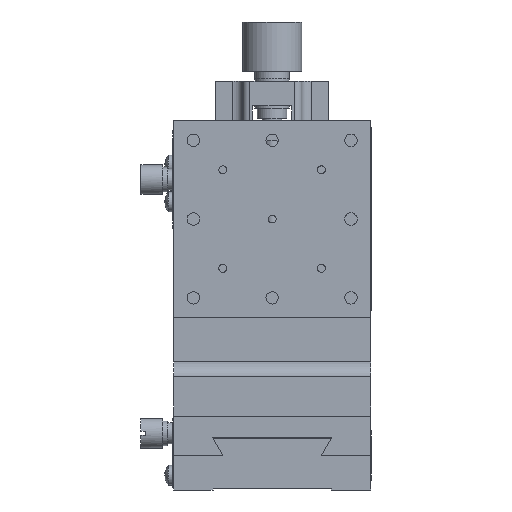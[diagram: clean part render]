
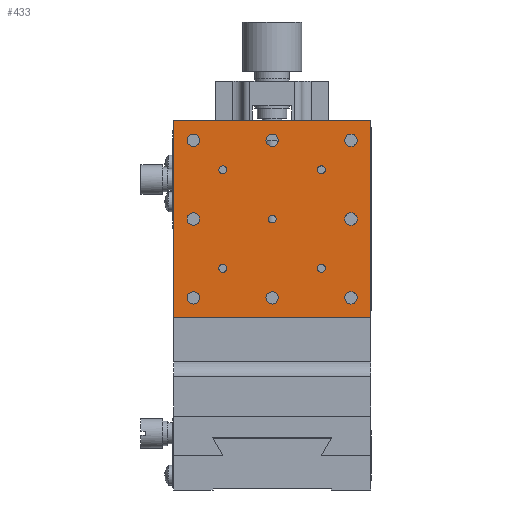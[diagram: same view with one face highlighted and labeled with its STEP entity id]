
A CAD part, front view. The second image highlights one B-rep face of the part: STEP entity #433.
In plain terms, the highlighted planar face has unit normal (0, -1, 0).
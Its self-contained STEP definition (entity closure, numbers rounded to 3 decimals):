
#433 = ADVANCED_FACE( '', ( #1048, #1049, #1050, #1051, #1052, #1053, #1054, #1055, #1056, #1057, #1058, #1059, #1060, #1061 ), #1062, .T. );
#1048 = FACE_BOUND( '', #1968, .T. );
#1049 = FACE_BOUND( '', #1969, .T. );
#1050 = FACE_BOUND( '', #1970, .T. );
#1051 = FACE_BOUND( '', #1971, .T. );
#1052 = FACE_BOUND( '', #1972, .T. );
#1053 = FACE_BOUND( '', #1973, .T. );
#1054 = FACE_BOUND( '', #1974, .T. );
#1055 = FACE_BOUND( '', #1975, .T. );
#1056 = FACE_BOUND( '', #1976, .T. );
#1057 = FACE_BOUND( '', #1977, .T. );
#1058 = FACE_BOUND( '', #1978, .T. );
#1059 = FACE_BOUND( '', #1979, .T. );
#1060 = FACE_BOUND( '', #1980, .T. );
#1061 = FACE_OUTER_BOUND( '', #1981, .T. );
#1062 = PLANE( '', #1982 );
#1968 = EDGE_LOOP( '', ( #3677 ) );
#1969 = EDGE_LOOP( '', ( #3678 ) );
#1970 = EDGE_LOOP( '', ( #3679 ) );
#1971 = EDGE_LOOP( '', ( #3680 ) );
#1972 = EDGE_LOOP( '', ( #3681 ) );
#1973 = EDGE_LOOP( '', ( #3682 ) );
#1974 = EDGE_LOOP( '', ( #3683 ) );
#1975 = EDGE_LOOP( '', ( #3684 ) );
#1976 = EDGE_LOOP( '', ( #3685 ) );
#1977 = EDGE_LOOP( '', ( #3686 ) );
#1978 = EDGE_LOOP( '', ( #3687 ) );
#1979 = EDGE_LOOP( '', ( #3688 ) );
#1980 = EDGE_LOOP( '', ( #3689 ) );
#1981 = EDGE_LOOP( '', ( #3690, #3691, #3692, #3693 ) );
#1982 = AXIS2_PLACEMENT_3D( '', #3694, #3695, #3696 );
#3677 = ORIENTED_EDGE( '', *, *, #5390, .T. );
#3678 = ORIENTED_EDGE( '', *, *, #5391, .T. );
#3679 = ORIENTED_EDGE( '', *, *, #5392, .T. );
#3680 = ORIENTED_EDGE( '', *, *, #5393, .T. );
#3681 = ORIENTED_EDGE( '', *, *, #5394, .T. );
#3682 = ORIENTED_EDGE( '', *, *, #5395, .T. );
#3683 = ORIENTED_EDGE( '', *, *, #5396, .T. );
#3684 = ORIENTED_EDGE( '', *, *, #5397, .T. );
#3685 = ORIENTED_EDGE( '', *, *, #5398, .T. );
#3686 = ORIENTED_EDGE( '', *, *, #5399, .T. );
#3687 = ORIENTED_EDGE( '', *, *, #5400, .T. );
#3688 = ORIENTED_EDGE( '', *, *, #5401, .T. );
#3689 = ORIENTED_EDGE( '', *, *, #5402, .T. );
#3690 = ORIENTED_EDGE( '', *, *, #5388, .F. );
#3691 = ORIENTED_EDGE( '', *, *, #5403, .F. );
#3692 = ORIENTED_EDGE( '', *, *, #5404, .F. );
#3693 = ORIENTED_EDGE( '', *, *, #5405, .F. );
#3694 = CARTESIAN_POINT( '', ( 0., -11., 55. ) );
#3695 = DIRECTION( '', ( 0., -1., 0. ) );
#3696 = DIRECTION( '', ( 0., 0., 1. ) );
#5388 = EDGE_CURVE( '', #6455, #6457, #6458, .T. );
#5390 = EDGE_CURVE( '', #6460, #6460, #6461, .T. );
#5391 = EDGE_CURVE( '', #6462, #6462, #6463, .T. );
#5392 = EDGE_CURVE( '', #6464, #6464, #6465, .T. );
#5393 = EDGE_CURVE( '', #6466, #6466, #6467, .T. );
#5394 = EDGE_CURVE( '', #6468, #6468, #6469, .T. );
#5395 = EDGE_CURVE( '', #6470, #6470, #6471, .T. );
#5396 = EDGE_CURVE( '', #6472, #6472, #6473, .T. );
#5397 = EDGE_CURVE( '', #6474, #6474, #6475, .T. );
#5398 = EDGE_CURVE( '', #6476, #6476, #6477, .T. );
#5399 = EDGE_CURVE( '', #6478, #6478, #6479, .T. );
#5400 = EDGE_CURVE( '', #6480, #6480, #6481, .T. );
#5401 = EDGE_CURVE( '', #6482, #6482, #6483, .T. );
#5402 = EDGE_CURVE( '', #6484, #6484, #6485, .T. );
#5403 = EDGE_CURVE( '', #6486, #6455, #6487, .T. );
#5404 = EDGE_CURVE( '', #6488, #6486, #6489, .T. );
#5405 = EDGE_CURVE( '', #6457, #6488, #6490, .T. );
#6455 = VERTEX_POINT( '', #8234 );
#6457 = VERTEX_POINT( '', #8237 );
#6458 = LINE( '', #8238, #8239 );
#6460 = VERTEX_POINT( '', #8242 );
#6461 = CIRCLE( '', #8243, 0.8 );
#6462 = VERTEX_POINT( '', #8244 );
#6463 = CIRCLE( '', #8245, 0.8 );
#6464 = VERTEX_POINT( '', #8246 );
#6465 = CIRCLE( '', #8247, 0.8 );
#6466 = VERTEX_POINT( '', #8248 );
#6467 = CIRCLE( '', #8249, 0.8 );
#6468 = VERTEX_POINT( '', #8250 );
#6469 = CIRCLE( '', #8251, 0.8 );
#6470 = VERTEX_POINT( '', #8252 );
#6471 = CIRCLE( '', #8253, 1.25 );
#6472 = VERTEX_POINT( '', #8254 );
#6473 = CIRCLE( '', #8255, 1.25 );
#6474 = VERTEX_POINT( '', #8256 );
#6475 = CIRCLE( '', #8257, 1.25 );
#6476 = VERTEX_POINT( '', #8258 );
#6477 = CIRCLE( '', #8259, 1.25 );
#6478 = VERTEX_POINT( '', #8260 );
#6479 = CIRCLE( '', #8261, 1.25 );
#6480 = VERTEX_POINT( '', #8262 );
#6481 = CIRCLE( '', #8263, 1.25 );
#6482 = VERTEX_POINT( '', #8264 );
#6483 = CIRCLE( '', #8265, 1.25 );
#6484 = VERTEX_POINT( '', #8266 );
#6485 = CIRCLE( '', #8267, 1.25 );
#6486 = VERTEX_POINT( '', #8268 );
#6487 = LINE( '', #8269, #8270 );
#6488 = VERTEX_POINT( '', #8271 );
#6489 = LINE( '', #8272, #8273 );
#6490 = LINE( '', #8274, #8275 );
#8234 = CARTESIAN_POINT( '', ( 20., -11., 75. ) );
#8237 = CARTESIAN_POINT( '', ( 20., -11., 35. ) );
#8238 = CARTESIAN_POINT( '', ( 20., -11., 55. ) );
#8239 = VECTOR( '', #9993, 1000. );
#8242 = CARTESIAN_POINT( '', ( 0.8, -11., 55. ) );
#8243 = AXIS2_PLACEMENT_3D( '', #9995, #9996, #9997 );
#8244 = CARTESIAN_POINT( '', ( -9.2, -11., 45. ) );
#8245 = AXIS2_PLACEMENT_3D( '', #9998, #9999, #10000 );
#8246 = CARTESIAN_POINT( '', ( -9.2, -11., 65. ) );
#8247 = AXIS2_PLACEMENT_3D( '', #10001, #10002, #10003 );
#8248 = CARTESIAN_POINT( '', ( 10.8, -11., 65. ) );
#8249 = AXIS2_PLACEMENT_3D( '', #10004, #10005, #10006 );
#8250 = CARTESIAN_POINT( '', ( 10.8, -11., 45. ) );
#8251 = AXIS2_PLACEMENT_3D( '', #10007, #10008, #10009 );
#8252 = CARTESIAN_POINT( '', ( 1.25, -11., 39. ) );
#8253 = AXIS2_PLACEMENT_3D( '', #10010, #10011, #10012 );
#8254 = CARTESIAN_POINT( '', ( -14.75, -11., 39. ) );
#8255 = AXIS2_PLACEMENT_3D( '', #10013, #10014, #10015 );
#8256 = CARTESIAN_POINT( '', ( -14.75, -11., 55. ) );
#8257 = AXIS2_PLACEMENT_3D( '', #10016, #10017, #10018 );
#8258 = CARTESIAN_POINT( '', ( -14.75, -11., 71. ) );
#8259 = AXIS2_PLACEMENT_3D( '', #10019, #10020, #10021 );
#8260 = CARTESIAN_POINT( '', ( 1.25, -11., 71. ) );
#8261 = AXIS2_PLACEMENT_3D( '', #10022, #10023, #10024 );
#8262 = CARTESIAN_POINT( '', ( 17.25, -11., 71. ) );
#8263 = AXIS2_PLACEMENT_3D( '', #10025, #10026, #10027 );
#8264 = CARTESIAN_POINT( '', ( 17.25, -11., 55. ) );
#8265 = AXIS2_PLACEMENT_3D( '', #10028, #10029, #10030 );
#8266 = CARTESIAN_POINT( '', ( 17.25, -11., 39. ) );
#8267 = AXIS2_PLACEMENT_3D( '', #10031, #10032, #10033 );
#8268 = CARTESIAN_POINT( '', ( -20., -11., 75. ) );
#8269 = CARTESIAN_POINT( '', ( 0., -11., 75. ) );
#8270 = VECTOR( '', #10034, 1000. );
#8271 = CARTESIAN_POINT( '', ( -20., -11., 35. ) );
#8272 = CARTESIAN_POINT( '', ( -20., -11., 55. ) );
#8273 = VECTOR( '', #10035, 1000. );
#8274 = CARTESIAN_POINT( '', ( 0., -11., 35. ) );
#8275 = VECTOR( '', #10036, 1000. );
#9993 = DIRECTION( '', ( 0., 0., -1. ) );
#9995 = CARTESIAN_POINT( '', ( 0., -11., 55. ) );
#9996 = DIRECTION( '', ( 0., 1., 0. ) );
#9997 = DIRECTION( '', ( 1., 0., 0. ) );
#9998 = CARTESIAN_POINT( '', ( -10., -11., 45. ) );
#9999 = DIRECTION( '', ( 0., 1., 0. ) );
#10000 = DIRECTION( '', ( 1., 0., 0. ) );
#10001 = CARTESIAN_POINT( '', ( -10., -11., 65. ) );
#10002 = DIRECTION( '', ( 0., 1., 0. ) );
#10003 = DIRECTION( '', ( 1., 0., 0. ) );
#10004 = CARTESIAN_POINT( '', ( 10., -11., 65. ) );
#10005 = DIRECTION( '', ( 0., 1., 0. ) );
#10006 = DIRECTION( '', ( 1., 0., 0. ) );
#10007 = CARTESIAN_POINT( '', ( 10., -11., 45. ) );
#10008 = DIRECTION( '', ( 0., 1., 0. ) );
#10009 = DIRECTION( '', ( 1., 0., 0. ) );
#10010 = CARTESIAN_POINT( '', ( 0., -11., 39. ) );
#10011 = DIRECTION( '', ( 0., 1., 0. ) );
#10012 = DIRECTION( '', ( 1., 0., 0. ) );
#10013 = CARTESIAN_POINT( '', ( -16., -11., 39. ) );
#10014 = DIRECTION( '', ( 0., 1., 0. ) );
#10015 = DIRECTION( '', ( 1., 0., 0. ) );
#10016 = CARTESIAN_POINT( '', ( -16., -11., 55. ) );
#10017 = DIRECTION( '', ( 0., 1., 0. ) );
#10018 = DIRECTION( '', ( 1., 0., 0. ) );
#10019 = CARTESIAN_POINT( '', ( -16., -11., 71. ) );
#10020 = DIRECTION( '', ( 0., 1., 0. ) );
#10021 = DIRECTION( '', ( 1., 0., 0. ) );
#10022 = CARTESIAN_POINT( '', ( 0., -11., 71. ) );
#10023 = DIRECTION( '', ( 0., 1., 0. ) );
#10024 = DIRECTION( '', ( 1., 0., 0. ) );
#10025 = CARTESIAN_POINT( '', ( 16., -11., 71. ) );
#10026 = DIRECTION( '', ( 0., 1., 0. ) );
#10027 = DIRECTION( '', ( 1., 0., 0. ) );
#10028 = CARTESIAN_POINT( '', ( 16., -11., 55. ) );
#10029 = DIRECTION( '', ( 0., 1., 0. ) );
#10030 = DIRECTION( '', ( 1., 0., 0. ) );
#10031 = CARTESIAN_POINT( '', ( 16., -11., 39. ) );
#10032 = DIRECTION( '', ( 0., 1., 0. ) );
#10033 = DIRECTION( '', ( 1., 0., 0. ) );
#10034 = DIRECTION( '', ( 1., 0., 0. ) );
#10035 = DIRECTION( '', ( 0., 0., 1. ) );
#10036 = DIRECTION( '', ( -1., 0., 0. ) );
